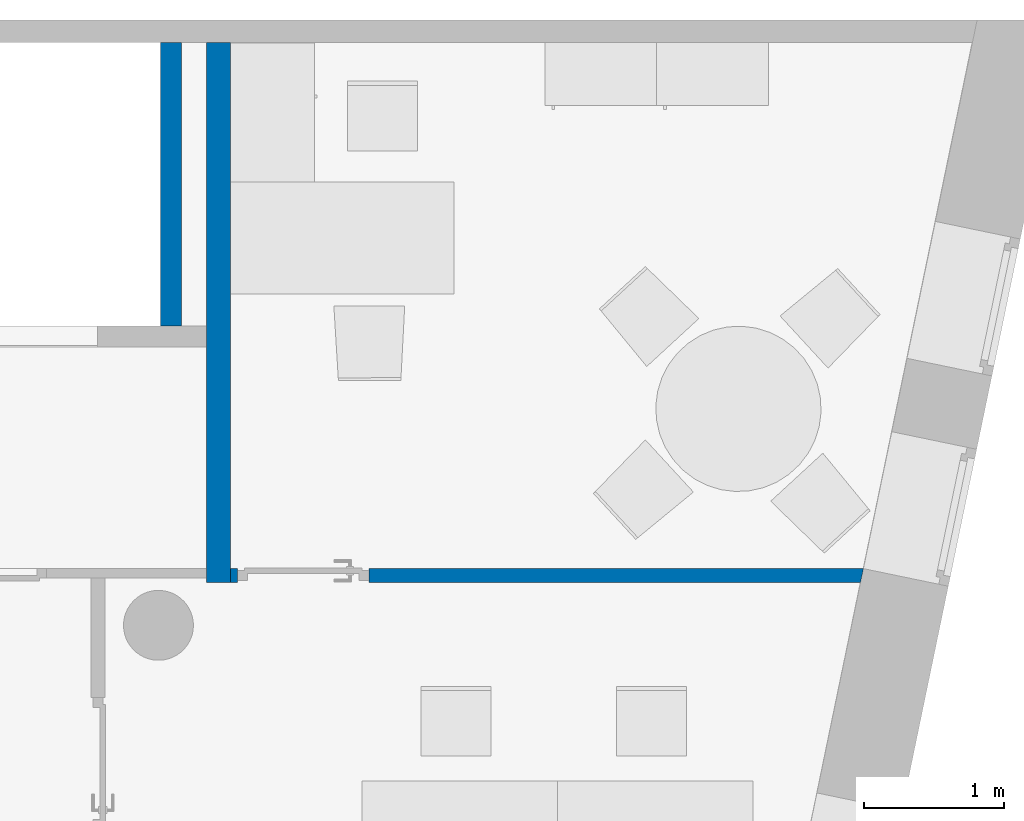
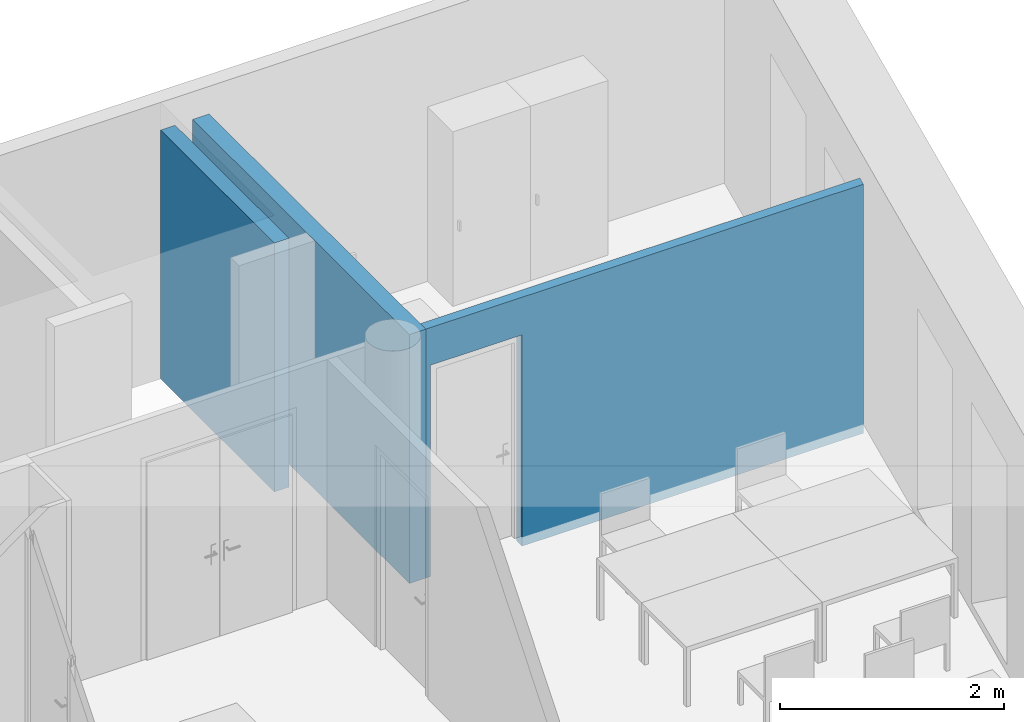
"""IFC4 building model written with IfcOpenShell, lengths in metres."""

from ifc_helpers import new_model, entity, si_unit, converted_unit, derived_unit, frame, frame_2d, origin, origin_with_axes, place, context, subcontext, project, spatial, polyline, rectangle, outline, extrude, material, layer, layer_set, layer_usage, element, save


model = new_model("IFC4")

# Units and contexts
model_context = context("Model", 3, precision=1e-05, world=origin())
body_context = subcontext(model_context, "Body", "Model", "MODEL_VIEW")
ifc_project = project(units=[si_unit("LENGTHUNIT", "METRE"), si_unit("AREAUNIT", "SQUARE_METRE"), si_unit("VOLUMEUNIT", "CUBIC_METRE"), si_unit("MASSUNIT", "GRAM", prefix="KILO"), converted_unit("PLANEANGLEUNIT", "DEGREE", entity("IfcPlaneAngleMeasure", 0.0174532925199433), si_unit("PLANEANGLEUNIT", "RADIAN"), dimensions=[0, 0, 0, 0, 0, 0, 0]), derived_unit("THERMALTRANSMITTANCEUNIT", [(si_unit("POWERUNIT", "WATT"), 1), (si_unit("THERMODYNAMICTEMPERATUREUNIT", "KELVIN"), -1), (si_unit("LENGTHUNIT", "METRE"), -2)]), derived_unit("VOLUMETRICFLOWRATEUNIT", [(si_unit("LENGTHUNIT", "METRE"), 3), (converted_unit("TIMEUNIT", "hour", entity("IfcTimeMeasure", 3600.0), si_unit("TIMEUNIT", "SECOND"), dimensions=[0, 0, 1, 0, 0, 0, 0]), -1), (si_unit("LENGTHUNIT", "METRE"), -1)])], contexts=[model_context])

# Building, storeys
building_placement = place(None, origin())
building = spatial("IfcBuilding", under=ifc_project, at=building_placement, Name="HABITATGE PLURIFAMILIAR", CompositionType="ELEMENT")
storey_1_placement = place(building_placement, frame((0.0, 0.0, 9.26)))
storey_1 = spatial("IfcBuildingStorey", under=building, at=storey_1_placement, Name="PLANTA SEGONA", CompositionType="ELEMENT", Elevation=9.26)
storey_2_placement = place(storey_1_placement, frame((0.0, 0.0, 6.25)))
storey_2 = spatial("IfcBuildingStorey", under=storey_1, at=storey_2_placement, Name="NOU", CompositionType="PARTIAL")

# Walls
ifc_material_1 = material()
ifc_layer_1 = layer(ifc_material_1, 0.15)
ifc_layer_set_1 = layer_set([ifc_layer_1])
ifc_layer_usage_1 = layer_usage(ifc_layer_set_1, "AXIS2", "POSITIVE", 0.0)
wall_1_placement = place(storey_2_placement, frame((421.156984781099, 26.0394598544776, -6.35), z_axis=(0.0, 0.0, 1.0), x_axis=(0.0, 1.0, 0.0)))
element("IfcWall", 1, at=wall_1_placement, inside=storey_2, material=ifc_layer_usage_1, Name="Evans P2", context=body_context, shape_type="SweptSolid", body=[
    extrude(rectangle(XDim=2.02900933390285, YDim=0.15, at=frame_2d((1.01450466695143, 0.075), x_axis=(1.0, 0.0))), origin_with_axes(), (0.0, 0.0, 1.0), 2.71),
])
ifc_material_2 = material()
ifc_layer_2 = layer(ifc_material_2, 0.17)
ifc_layer_set_2 = layer_set([ifc_layer_2])
ifc_layer_usage_2 = layer_usage(ifc_layer_set_2, "AXIS2", "POSITIVE", 0.0)
wall_2_placement = place(storey_2_placement, frame((421.506984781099, 24.2047894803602, -6.35), z_axis=(0.0, 0.0, 1.0), x_axis=(0.0, 1.0, 0.0)))
element("IfcWall", 2, at=wall_2_placement, inside=storey_2, material=ifc_layer_usage_2, Name="Evans P2", context=body_context, shape_type="SweptSolid", body=[
    extrude(rectangle(XDim=3.86345842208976, YDim=0.17, at=frame_2d((1.93172921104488, 0.085), x_axis=(1.0, 0.0))), origin_with_axes(), (0.0, 0.0, 1.0), 2.71),
])

# Wall, opening
ifc_material_3 = material()
ifc_layer_3 = layer(ifc_material_3, 0.1)
ifc_layer_set_3 = layer_set([ifc_layer_3])
ifc_layer_usage_3 = layer_usage(ifc_layer_set_3, "AXIS2", "POSITIVE", 0.0)
wall_3_placement = place(storey_2_placement, frame((426.033312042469, 24.3047894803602, -6.35), z_axis=(0.0, 0.0, 1.0), x_axis=(-1.0, 0.0, 0.0)))
wall_3 = element("IfcWall", 3, at=wall_3_placement, inside=storey_2, material=ifc_layer_usage_3, Name="Mampara P2", context=body_context, shape_type="SweptSolid", body=[
    extrude(outline(polyline([(-4.52632726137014, -0.1), (0.0, -0.1), (0.0, 0.0), (-4.50560331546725, 0.0), (-4.52632726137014, -0.1)])), frame((4.52632726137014, 0.1, 0.0), z_axis=(0.0, 0.0, 1.0), x_axis=(1.0, 0.0, 0.0)), (0.0, 0.0, 1.0), 2.71),
])
opening_placement = place(wall_3_placement, frame((3.53632726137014, 0.0, 0.0), z_axis=(0.0, 1.0, 0.0), x_axis=(0.0, 0.0, 1.0)))
element("IfcOpeningElement", 4, at=opening_placement, cuts=wall_3, Name="Vano puerta", ObjectType="Opening", context=body_context, shape_type="SweptSolid", body=[
    extrude(outline(polyline([(2.3, 0.94), (2.3, 0.0), (0.0, 0.0), (0.0, 0.94), (2.3, 0.94)])), origin_with_axes(), (0.0, 0.0, 1.0), 0.1),
])

save(model, "model.ifc")
